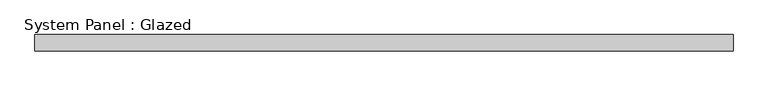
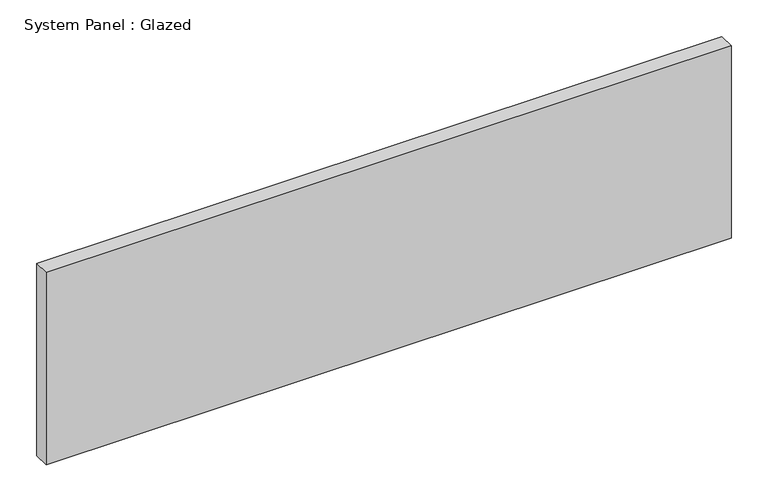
"""IFC4 building model written with IfcOpenShell, lengths in millimetres: plate geometry, System Panel : Glazed."""

import ifcopenshell
import ifcopenshell.guid

model = None  # the IFC model being written
_history = None  # IfcOwnerHistory: only IFC2X3 demands one
_inside = {}  # id of a spatial element -> (the spatial element, [elements in it])
_under = {}  # id of a project, library or spatial element -> (it, [spatial elements below it])
_declared = {}  # id of a project -> (the project, [libraries it declares])
_typed = {}  # id of a type object -> (the type object, [elements of that type])
_made_of = {}  # id of a material, layer set ... -> (it, [elements and type objects made of it])


def new_model(schema):
    """Start an empty IFC model of exactly this schema.

    Asked for "IFC4X3", IfcOpenShell would pick the latest addendum, in which some entities
    have other attributes; the version numbers below select the first issue.
    IFC2X3 requires an IfcOwnerHistory on every rooted entity: one is made here for all.
    """
    global model, _history
    if schema == "IFC4X3":
        model = ifcopenshell.file(schema_version=(4, 3, 0, 0))
    else:
        model = ifcopenshell.file(schema=schema)
    _inside.clear()
    _under.clear()
    _declared.clear()
    _typed.clear()
    _made_of.clear()
    _history = None
    if model.schema == "IFC2X3":
        org = make("IfcOrganization", Name="unknown")
        user = make(
            "IfcPersonAndOrganization",
            ThePerson=make("IfcPerson", FamilyName="unknown"),
            TheOrganization=org,
        )
        app = make(
            "IfcApplication",
            ApplicationDeveloper=org,
            Version="unknown",
            ApplicationFullName="unknown",
            ApplicationIdentifier="unknown",
        )
        _history = make(
            "IfcOwnerHistory",
            OwningUser=user,
            OwningApplication=app,
            ChangeAction="ADDED",
            CreationDate=0,
        )
    return model


def make(cls, **values):
    """One entity of the class cls with the attributes given. An attribute that is None is left unset."""
    return model.create_entity(
        cls, **{name: value for name, value in values.items() if value is not None}
    )


def rooted(cls, **values):
    """An entity with a GlobalId (a new one), such as an element, a storey or a relation."""
    return make(cls, GlobalId=ifcopenshell.guid.new(), OwnerHistory=_history, **values)


def si_unit(unit_type, name, prefix=None):
    """IfcSIUnit, for example si_unit("LENGTHUNIT", "METRE", prefix="MILLI")."""
    return make("IfcSIUnit", UnitType=unit_type, Prefix=prefix, Name=name)


def assignment(units):
    """IfcUnitAssignment: the units of a project."""
    return None if units is None else make("IfcUnitAssignment", Units=units)


def point(xyz):
    """IfcCartesianPoint."""
    return None if xyz is None else make("IfcCartesianPoint", Coordinates=xyz)


def direction(xyz):
    """IfcDirection."""
    return None if xyz is None else make("IfcDirection", DirectionRatios=xyz)


def frame(location, z_axis=None, x_axis=None):
    """IfcAxis2Placement3D, a coordinate frame: its origin and axes. An axis left out is left unset."""
    return make(
        "IfcAxis2Placement3D",
        Location=point(location),
        Axis=direction(z_axis),
        RefDirection=direction(x_axis),
    )


def origin():
    """The frame at (0, 0, 0) with its axes left unset."""
    return frame((0.0, 0.0, 0.0))


def origin_with_axes():
    """The frame at (0, 0, 0) with the z axis (0, 0, 1) and the x axis (1, 0, 0) written out."""
    return frame((0.0, 0.0, 0.0), z_axis=(0.0, 0.0, 1.0), x_axis=(1.0, 0.0, 0.0))


def place(relative_to, where):
    """IfcLocalPlacement: puts the frame where relative to a parent placement (None: the world)."""
    return make(
        "IfcLocalPlacement", PlacementRelTo=relative_to, RelativePlacement=where
    )


def context(
    kind, dimensions, precision=None, world=None, true_north=None, identifier=None
):
    """IfcGeometricRepresentationContext, for example the 3D "Model" context."""
    return make(
        "IfcGeometricRepresentationContext",
        ContextIdentifier=identifier,
        ContextType=kind,
        CoordinateSpaceDimension=dimensions,
        Precision=precision,
        WorldCoordinateSystem=world,
        TrueNorth=true_north,
    )


def project(units=None, contexts=None):
    """IfcProject with its units and contexts."""
    return rooted(
        "IfcProject",
        Name="project",
        RepresentationContexts=contexts,
        UnitsInContext=assignment(units),
    )


def spatial(cls, under=None, at=None, **own):
    """A site, building, storey or space (cls), placed at a placement, below another one or the project."""
    s = rooted(cls, ObjectPlacement=at, **own)
    if under is not None:
        _under.setdefault(under.id(), (under, []))[1].append(s)
    return s


def polyline(points):
    """IfcPolyline through the points."""
    return make("IfcPolyline", Points=[point(p) for p in points])


def outline(outer, holes=None, kind="AREA"):
    """IfcArbitraryClosedProfileDef: a profile drawn as a closed curve; with holes, ...WithVoids."""
    if holes is None:
        return make("IfcArbitraryClosedProfileDef", ProfileType=kind, OuterCurve=outer)
    return make(
        "IfcArbitraryProfileDefWithVoids",
        ProfileType=kind,
        OuterCurve=outer,
        InnerCurves=holes,
    )


def extrude(swept, where, along, depth):
    """IfcExtrudedAreaSolid: the profile swept, set in the frame where, extruded along a direction by depth."""
    return make(
        "IfcExtrudedAreaSolid",
        SweptArea=swept,
        Position=where,
        ExtrudedDirection=direction(along),
        Depth=depth,
    )


def shape(context_of_items, identifier, shape_type, items):
    """IfcShapeRepresentation: the items that make up one representation, for example the "Body"."""
    return make(
        "IfcShapeRepresentation",
        ContextOfItems=context_of_items,
        RepresentationIdentifier=identifier,
        RepresentationType=shape_type,
        Items=items,
    )


def source(mapping_origin, context_of_items, identifier, shape_type, items):
    """IfcRepresentationMap: a shape defined once, which mapped items show again and again."""
    return make(
        "IfcRepresentationMap",
        MappingOrigin=mapping_origin,
        MappedRepresentation=shape(context_of_items, identifier, shape_type, items),
    )


def transform(
    local_origin,
    x_axis=None,
    y_axis=None,
    z_axis=None,
    scale=None,
    scale2=None,
    scale3=None,
    uniform=True,
):
    """IfcCartesianTransformationOperator3D, or its non-uniform kind. x_axis, y_axis, z_axis: its Axis1, 2, 3."""
    if uniform:
        return make(
            "IfcCartesianTransformationOperator3D",
            Axis1=direction(x_axis),
            Axis2=direction(y_axis),
            LocalOrigin=point(local_origin),
            Scale=scale,
            Axis3=direction(z_axis),
        )
    return make(
        "IfcCartesianTransformationOperator3DnonUniform",
        Axis1=direction(x_axis),
        Axis2=direction(y_axis),
        LocalOrigin=point(local_origin),
        Scale=scale,
        Axis3=direction(z_axis),
        Scale2=scale2,
        Scale3=scale3,
    )


def mapped(mapping_source, mapping_target):
    """IfcMappedItem: shows the shape of a source again, moved by a transform."""
    return make(
        "IfcMappedItem", MappingSource=mapping_source, MappingTarget=mapping_target
    )


def made_of(thing, what):
    """Note that an element or type object is made of a material, layer set ...; save() writes the relation."""
    if what is not None:
        _made_of.setdefault(what.id(), (what, []))[1].append(thing)
    return thing


def element(
    cls,
    number,
    at=None,
    inside=None,
    cuts=None,
    type_object=None,
    material=None,
    context=None,
    identifier="Body",
    shape_type=None,
    held_by="IfcProductDefinitionShape",
    body=None,
    shapes=None,
    **own,
):
    """One element of the class cls, such as IfcWall. Its Tag is "e" and its number.

    at: its placement. inside: the storey or other place that contains it. cuts: it is an
    opening in that element (IfcRelVoidsElement). A single representation is given by context,
    identifier, shape_type and body (its items); several are given by shapes. held_by: the class
    of the entity that holds the representations. save() writes the other relations.
    """
    e = rooted(cls, Tag="e%d" % number, ObjectPlacement=at, **own)
    if body is not None:
        shapes = [shape(context, identifier, shape_type, body)]
    if shapes is not None:
        e.Representation = make(held_by, Representations=shapes)
    if inside is not None:
        _inside.setdefault(inside.id(), (inside, []))[1].append(e)
    if cuts is not None:
        rooted(
            "IfcRelVoidsElement", RelatingBuildingElement=cuts, RelatedOpeningElement=e
        )
    if type_object is not None:
        _typed.setdefault(type_object.id(), (type_object, []))[1].append(e)
    return made_of(e, material)


def aggregate(whole, parts):
    """IfcRelAggregates: a whole, such as a stair, and the parts it consists of."""
    return rooted("IfcRelAggregates", RelatingObject=whole, RelatedObjects=parts)


def save(model, path):
    """Write the relations noted so far, then the file.

    IfcRelAggregates (storeys below a building ...), IfcRelContainedInSpatialStructure (elements
    in a storey), IfcRelDefinesByType, IfcRelAssociatesMaterial and IfcRelDeclares: one each for
    every whole, place, type object, material and project.
    """
    for whole, parts in _under.values():
        aggregate(whole, parts)
    for where, things in _inside.values():
        rooted(
            "IfcRelContainedInSpatialStructure",
            RelatedElements=things,
            RelatingStructure=where,
        )
    for kind, things in _typed.values():
        rooted("IfcRelDefinesByType", RelatedObjects=things, RelatingType=kind)
    for what, things in _made_of.values():
        rooted("IfcRelAssociatesMaterial", RelatedObjects=things, RelatingMaterial=what)
    for by, libraries in _declared.values():
        rooted("IfcRelDeclares", RelatingContext=by, RelatedDefinitions=libraries)
    model.write(path)


def system_panel_glazed_e487c379(model_context):
    return source(origin(), model_context, "Body", "SweptSolid", [
        extrude(outline(polyline([(537.5000001, 24.5), (-537.5000001, 24.5), (-537.5000001, 49.5), (537.5000001, 49.5), (537.5000001, 24.5)])), origin_with_axes(), (0.0, 0.0, 1.0), 319.3395716),
    ])


if __name__ == "__main__":
    model = new_model("IFC4")
    model_context = context("Model", 3, world=origin())
    ifc_project = project(units=[si_unit("LENGTHUNIT", "METRE", prefix="MILLI")], contexts=[model_context])
    site = spatial("IfcSite", under=ifc_project)
    building = spatial("IfcBuilding", under=site)
    placement = place(None, origin())
    system_panel_glazed_shape = system_panel_glazed_e487c379(model_context)
    element("IfcPlate", 1, ObjectType="System Panel : Glazed", at=placement, inside=building, context=model_context, shape_type="MappedRepresentation", body=[
        mapped(system_panel_glazed_shape, transform((0.0, 0.0, 0.0), x_axis=(1.0, 0.0, 0.0), y_axis=(0.0, 1.0, 0.0), z_axis=(0.0, 0.0, 1.0))),
    ])
    save(model, "model.ifc")
